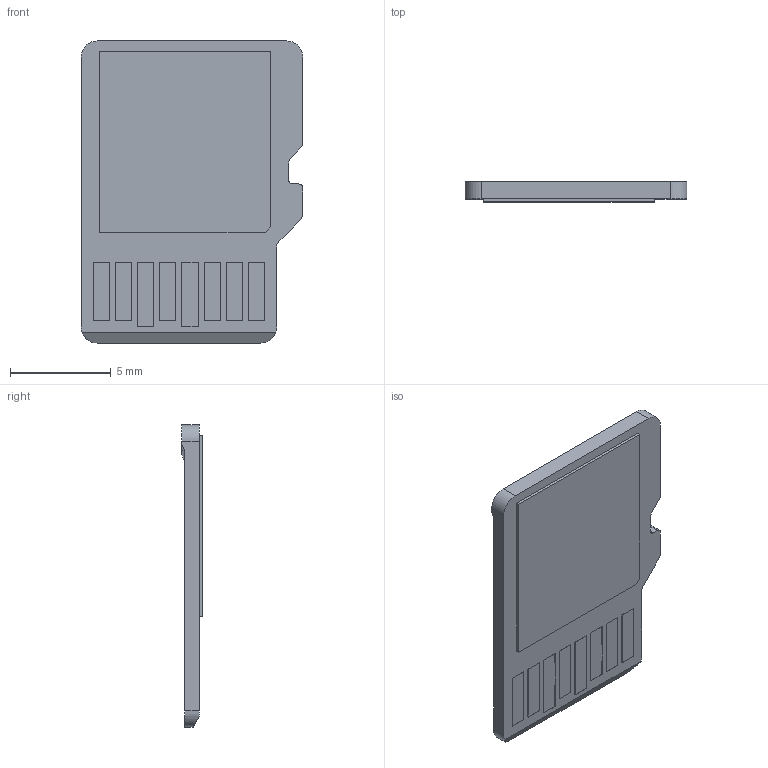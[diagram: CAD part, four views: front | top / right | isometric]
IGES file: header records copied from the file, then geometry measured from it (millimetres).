
Start section:  PTC IGES file: microsd-card_1_prt.igs
Global section: file name: microsd-card_1_prt.igs; native system: Pro/ENGINEER by Parametric Technology Corporation; preprocessor: 2006170; author: GRA; organization: Unknown; date: 20080630.105203; units: millimetre
Bounding box: 11 x 1 x 15 mm (x, y, z)
Surface area: 354.6 mm2 (no closed solid volume)
Topology: 0 solids, 0 shells, 509 faces, 2868 edges, 2868 vertices
Faces by surface type: bspline 497, revolution 12
